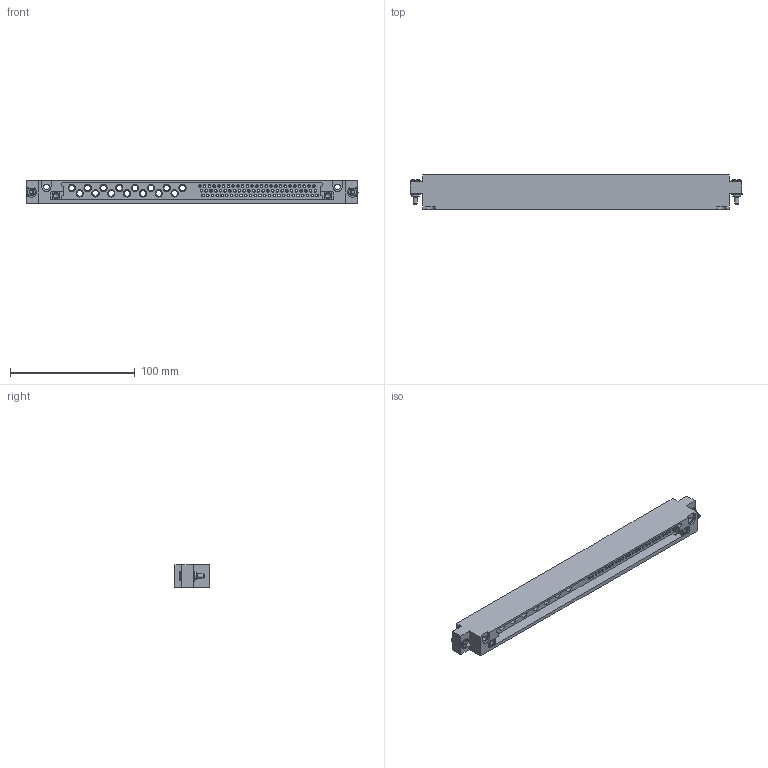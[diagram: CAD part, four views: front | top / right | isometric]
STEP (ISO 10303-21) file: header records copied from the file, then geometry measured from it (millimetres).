
FILE_DESCRIPTION((''),'2;1');
FILE_NAME('C:\old_Drawings\shrinkwrapped website .stp files\754051G-STP.stp','2011-08-01T13:43:34',('GaryRobinson'),(''),'Autodesk Inventor 2011','Autodesk Inventor 2011','');
FILE_SCHEMA(('CONFIG_CONTROL_DESIGN'));
Length unit declared in the file: inch
Products named in the file (1): 754051G-STP
Bounding box: 266.57 x 27.52 x 18.3 mm (x, y, z)
Surface area: 45155.9 mm2 (no closed solid volume)
Topology: 0 solids, 9 shells, 1677 faces, 4141 edges, 2756 vertices
Faces by surface type: plane 860, bspline 449, cylinder 346, cone 20, torus 2
Full cylindrical faces by diameter (mm): 1.702 x2, 1.778 x75, 2.159 x150, 2.184 x2, 2.261 x2, 2.54 x4, 3.505 x2, 3.734 x2, 3.962 x2, 4.191 x2, 4.318 x2, 4.394 x2, 4.572 x15, 5.715 x2, 5.842 x30, 6.223 x4, 6.35 x4, 7.62 x2
Entity records: 53646 total; most frequent: CARTESIAN_POINT 15519, ORIENTED_EDGE 7602, DIRECTION 6053, EDGE_CURVE 3801, VERTEX_POINT 2736, EDGE_LOOP 2463, VECTOR 2139, LINE 2139
